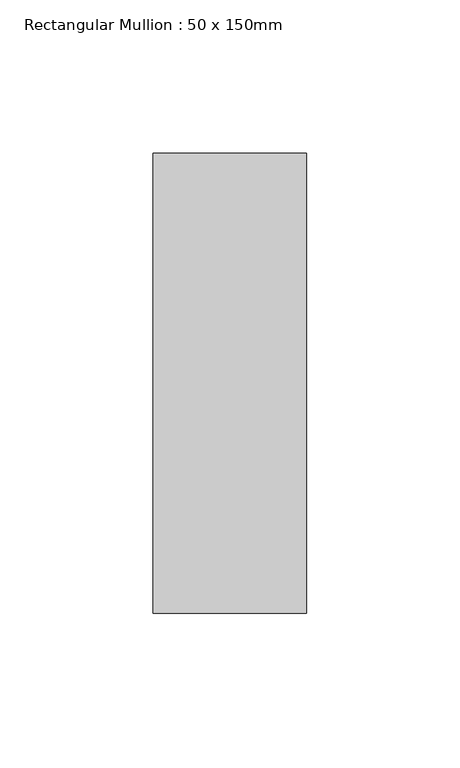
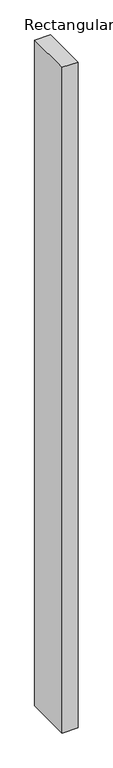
"""IFC4 building model written with IfcOpenShell, lengths in millimetres: member geometry, Rectangular Mullion : 50 x 150mm."""

from ifc_helpers import new_model, si_unit, frame, origin, place, context, project, spatial, polyline, outline, extrude, source, transform, mapped, element, save


def rectangular_mullion_50_x_150mm_1dcfd439(model_context):
    return source(origin(), model_context, "Body", "SweptSolid", [
        extrude(outline(polyline([(25.0, 75.0), (25.0, -75.0), (-25.0, -75.0), (-25.0, 75.0), (25.0, 75.0)])), frame((0.0, 0.0, -2220.0), z_axis=(0.0, 0.0, 1.0), x_axis=(1.0, 0.0, 0.0)), (0.0, 0.0, 1.0), 2220.0),
    ])


if __name__ == "__main__":
    model = new_model("IFC4")
    model_context = context("Model", 3, world=origin())
    ifc_project = project(units=[si_unit("LENGTHUNIT", "METRE", prefix="MILLI")], contexts=[model_context])
    site = spatial("IfcSite", under=ifc_project)
    building = spatial("IfcBuilding", under=site)
    placement = place(None, origin())
    rectangular_mullion_50_x_150mm_shape = rectangular_mullion_50_x_150mm_1dcfd439(model_context)
    element("IfcMember", 1, ObjectType="Rectangular Mullion : 50 x 150mm", at=placement, inside=building, context=model_context, shape_type="MappedRepresentation", body=[
        mapped(rectangular_mullion_50_x_150mm_shape, transform((0.0, 0.0, 0.0), x_axis=(1.0, 0.0, 0.0), y_axis=(0.0, 1.0, 0.0), z_axis=(0.0, 0.0, 1.0))),
    ])
    save(model, "model.ifc")
